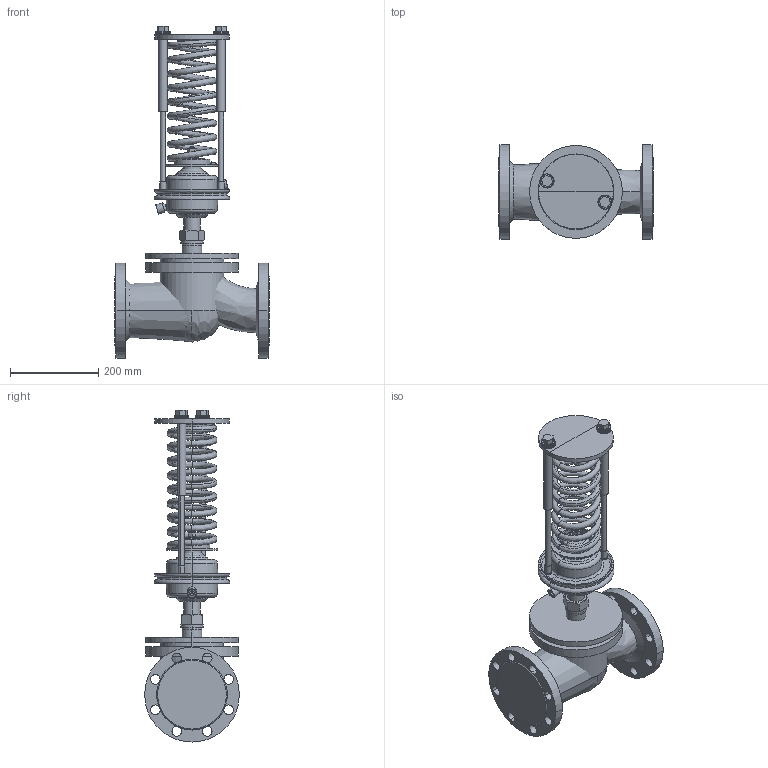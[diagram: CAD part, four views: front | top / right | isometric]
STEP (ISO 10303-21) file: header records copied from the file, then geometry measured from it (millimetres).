
FILE_DESCRIPTION(/* description */ (''),/* implementation_level */ '2;1');
FILE_NAME(/* name */ 'ETM_Регулятор давления_УРРД_НЗ_РД_DN100 0.1—0.6 МПа',/* time_stamp */ '2026-04-24T18:20:54+03:00',/* author */ (''),/* organization */ (''),/* preprocessor_version */ 'ST-DEVELOPER v20',/* originating_system */ '',/* authorisation */ '');
FILE_SCHEMA (('AP242_MANAGED_MODEL_BASED_3D_ENGINEERING_MIM_LF { 1 0 10303 442 1 1 4 }'));
Length unit declared in the file: millimetre
Products named in the file (13): TopLevelAssembly; Выдавливание; Переход; Выдавливание_
1; Переход_1; Переход_2; Переход_3; Объемная геометрия 
присоединена; Выдавливание_
2; Выдавливание_
3; Объемная геометрия 
присоединена_1; Выдавливание_
4; Пружина красная
Assembly tree (12 placements, depth 2):
  TopLevelAssembly
    Выдавливание
    Переход
    Выдавливание_
1
    Переход_1
    Переход_2
    Переход_3
    Объемная геометрия 
присоединена
    Выдавливание_
2
    Выдавливание_
3
    Объемная геометрия 
присоединена_1
    Выдавливание_
4
    Пружина красная
Bounding box: 350 x 215 x 753.65 mm (x, y, z)
Volume: 10875533.5 mm3; surface area: 1155597.9 mm2
Topology: 31 solids, 31 shells, 522 faces, 1053 edges, 573 vertices
Faces by surface type: plane 181, bspline 177, cylinder 154, cone 10
Entity records: 16710 total; most frequent: CARTESIAN_POINT 5365, DIRECTION 2393, ORIENTED_EDGE 2102, EDGE_CURVE 1051, AXIS2_PLACEMENT_3D 1006, CIRCLE 635, VERTEX_POINT 573, EDGE_LOOP 560
